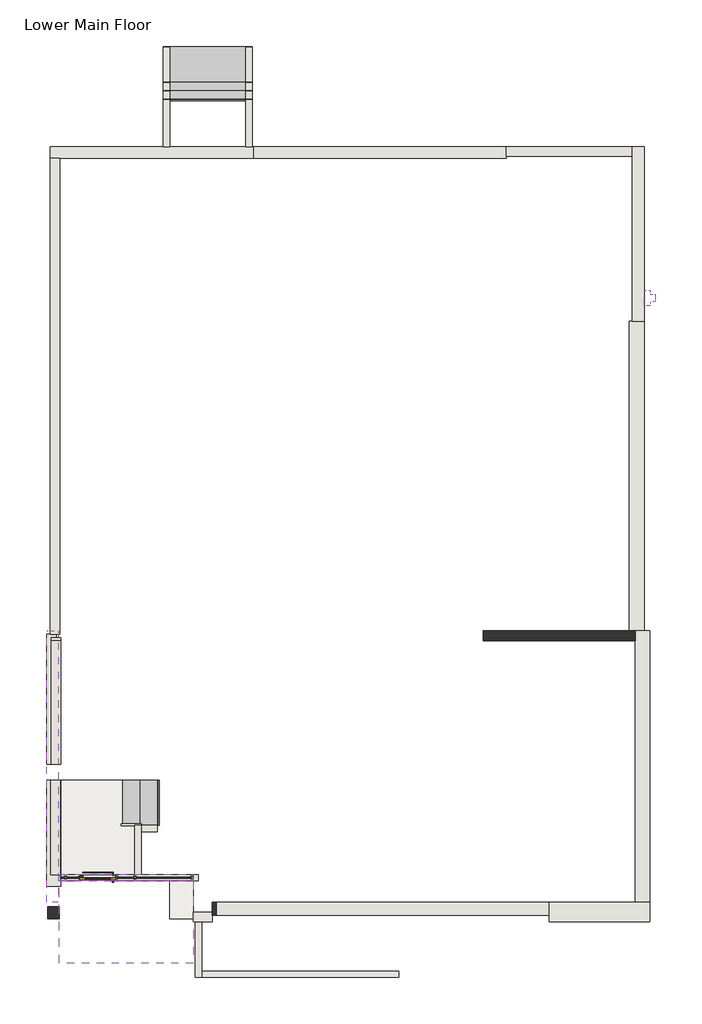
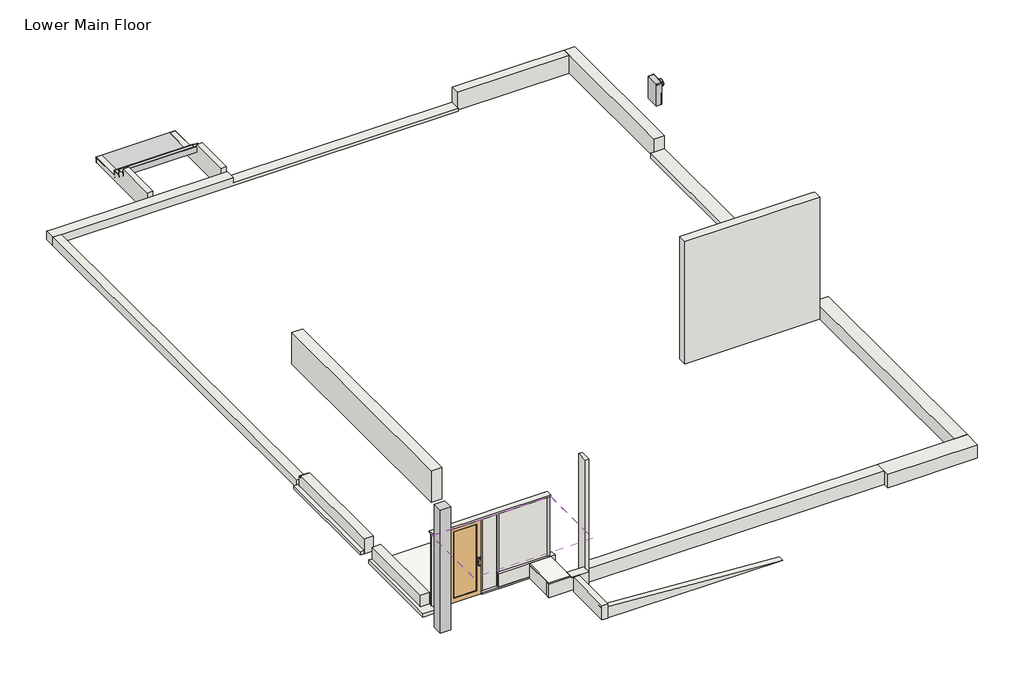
# One storey, incomplete: 29 walls, 6 proxies, 2 doors, 2 slabs, 2 stair flights, 1 column, 1 covering, 1 roof.
"""IFC4 building model written with IfcOpenShell, lengths in millimetres."""

from ifc_helpers import new_model, si_unit, frame, origin, origin_with_axes, place, context, project, spatial, polyline, outline, extrude, faceted_brep, transform, mapped, element, save
from components import hydro_meter_default_1_85c93f45, door_9453a76a, door_4acad3c3, stair_flight_50mm_tread_25mm_nosing_13mm_riser_681defaa, stair_flight_50mm_tread_25mm_nosing_13mm_riser_be8d0dcb

model = new_model("IFC4")

# Units and contexts
model_context = context("Model", 3, world=origin())
ifc_project = project(units=[si_unit("LENGTHUNIT", "METRE", prefix="MILLI")], contexts=[model_context])

# Site, building, storey
site = spatial("IfcSite", under=ifc_project)
building = spatial("IfcBuilding", under=site)
storey = spatial("IfcBuildingStorey", under=building, Name="Lower Main Floor", Elevation=-406.4)

# Proxies
placement = place(None, origin())
element("IfcBuildingElementProxy", 1, Name="Planitar-Mullion", ObjectType="Planitar-Mullion", at=placement, inside=storey, context=model_context, shape_type="SweptSolid", body=[
    extrude(outline(polyline([(1352.55, -7214.87), (1352.55, -7151.37), (1416.05, -7151.37), (1416.05, -7214.87), (1352.55, -7214.87)])), frame((0.0, 0.0, -355.6), z_axis=(0.0, 0.0, 1.0), x_axis=(1.0, 0.0, 0.0)), (0.0, 0.0, 1.0), 2235.2),
])
element("IfcBuildingElementProxy", 2, Name="Planitar-Mullion", ObjectType="Planitar-Mullion", at=placement, inside=storey, context=model_context, shape_type="SweptSolid", body=[
    extrude(outline(polyline([(2280.6276974, -7214.87), (2280.6276974, -7151.37), (2344.1276974, -7151.37), (2344.1276974, -7214.87), (2280.6276974, -7214.87)])), frame((0.0, 0.0, -355.6), z_axis=(0.0, 0.0, 1.0), x_axis=(1.0, 0.0, 0.0)), (0.0, 0.0, 1.0), 2216.15),
])
element("IfcBuildingElementProxy", 3, Name="Planitar-Mullion", ObjectType="Planitar-Mullion", at=placement, inside=storey, context=model_context, shape_type="SweptSolid", body=[
    extrude(outline(polyline([(2755.9, -7214.87), (2755.9, -7151.37), (2819.4, -7151.37), (2819.4, -7214.87), (2755.9, -7214.87)])), frame((0.0, 0.0, -355.6), z_axis=(0.0, 0.0, 1.0), x_axis=(1.0, 0.0, 0.0)), (0.0, 0.0, 1.0), 2216.15),
])
element("IfcBuildingElementProxy", 4, Name="Planitar-Mullion", ObjectType="Planitar-Mullion", at=placement, inside=storey, context=model_context, shape_type="SweptSolid", body=[
    extrude(outline(polyline([(4222.75, -7214.87), (4222.75, -7151.37), (4286.25, -7151.37), (4286.25, -7214.87), (4222.75, -7214.87)])), frame((0.0, 0.0, -336.55), z_axis=(0.0, 0.0, 1.0), x_axis=(1.0, 0.0, 0.0)), (0.0, 0.0, 1.0), 2197.1),
])
element("IfcBuildingElementProxy", 5, Name="Planitar-Mullion", ObjectType="Planitar-Mullion", at=placement, inside=storey, context=model_context, shape_type="SweptSolid", body=[
    extrude(outline(polyline([(971.55, -7214.87), (971.55, -7151.37), (1035.05, -7151.37), (1035.05, -7214.87), (971.55, -7214.87)])), frame((0.0, 0.0, -355.6), z_axis=(0.0, 0.0, 1.0), x_axis=(1.0, 0.0, 0.0)), (0.0, 0.0, 1.0), 2216.15),
])
hydro_meter_default_1_shape = hydro_meter_default_1_85c93f45(model_context)
element("IfcBuildingElementProxy", 6, Name="Hydro Meter : Default 1", ObjectType="Hydro Meter : Default 1", at=placement, inside=storey, context=model_context, shape_type="MappedRepresentation", body=[
    mapped(hydro_meter_default_1_shape, transform((15849.6, 7683.5, -406.4), x_axis=(0.0, -1.0, 0.0), y_axis=(1.0, 0.0, 0.0), z_axis=(0.0, 0.0, 1.0))),
])

# Column
element("IfcColumn", 7, ObjectType="Rectangular Column : Default 1", at=placement, inside=storey, context=model_context, shape_type="SweptSolid", body=[
    extrude(outline(polyline([(850.6952, -7924.8), (850.6952, -8229.6), (545.8952, -8229.6), (545.8952, -7924.8), (850.6952, -7924.8)])), frame((0.0, 0.0, -406.4), z_axis=(0.0, 0.0, 1.0), x_axis=(1.0, 0.0, 0.0)), (0.0, 0.0, 1.0), 3759.2),
])

# Covering
element("IfcCovering", 8, ObjectType="1/2\" Ceiling", at=placement, inside=storey, context=model_context, shape_type="SweptSolid", body=[
    extrude(outline(polyline([(850.6952, -9375.775), (850.6952, -7265.67), (4286.25, -7265.67), (4286.25, -9375.775), (850.6952, -9375.775)]), holes=[polyline([(1441.2452, -8193.7225), (1187.2452, -8193.7225), (1187.2452, -8447.7225), (1441.2452, -8447.7225), (1441.2452, -8193.7225)]), polyline([(3949.4952, -8193.7225), (3695.4952, -8193.7225), (3695.4952, -8447.7225), (3949.4952, -8447.7225), (3949.4952, -8193.7225)])]), frame((0.0, 0.0, 1879.6), z_axis=(0.0, 0.0, 1.0), x_axis=(1.0, 0.0, 0.0)), (0.0, 0.0, 1.0), 12.7),
])

# Doors
door_shape = door_9453a76a(model_context)
element("IfcDoor", 9, ObjectType="Planitar - Swap_Full Glass_Panel : Planitar - Swap_Full Glass_Panel", at=placement, inside=storey, context=model_context, shape_type="MappedRepresentation", body=[
    mapped(door_shape, transform((1835.15, -7208.52, -406.4), x_axis=(-1.0, 0.0, 0.0), y_axis=(0.0, -1.0, 0.0), z_axis=(0.0, 0.0, 1.0))),
])
door_2_shape = door_4acad3c3(model_context)
element("IfcDoor", 10, ObjectType="Planitar - Single Door : 3'-0 x 6'-8\"", at=placement, inside=storey, context=model_context, shape_type="MappedRepresentation", body=[
    mapped(door_2_shape, transform((1835.15, -7183.12, -406.4), x_axis=(-1.0, 0.0, 0.0), y_axis=(0.0, -1.0, 0.0), z_axis=(0.0, 0.0, 1.0))),
])

# Roof
element("IfcRoof", 11, ObjectType="Planitar Roof -2'", at=placement, inside=storey, context=model_context, shape_type="SweptSolid", body=[
    extrude(outline(polyline([(850.6952, -7242.175), (4286.0452, -7242.175), (4286.0452, -9375.775), (850.6952, -9375.775), (850.6952, -7242.175)])), frame((0.0, 0.0, 1879.6), z_axis=(0.0, 0.0, 1.0), x_axis=(1.0, 0.0, 0.0)), (0.0, 0.0, 1.0), 609.6),
])

# Slabs
element("IfcSlab", 12, ObjectType="Ledge - 2\"", at=placement, inside=storey, context=model_context, shape_type="SweptSolid", body=[
    extrude(outline(polyline([(2508.25, -4686.3), (2508.25, -5835.65), (2787.65, -5835.65), (2787.65, -7100.57), (876.3, -7100.57), (876.3, -4686.3), (2508.25, -4686.3)])), frame((0.0, 0.0, -457.2), z_axis=(0.0, 0.0, 1.0), x_axis=(1.0, 0.0, 0.0)), (0.0, 0.0, 1.0), 50.8),
])
element("IfcSlab", 13, ObjectType="Ledge - 2\"", at=placement, inside=storey, context=model_context, shape_type="SweptSolid", body=[
    extrude(outline(polyline([(3676.65, -7265.67), (4286.25, -7265.67), (4286.25, -8230.87), (3676.65, -8230.87), (3676.65, -7265.67)])), origin_with_axes(), (0.0, 0.0, 1.0), 50.8),
])

# Stair flights
stair_flight_50mm_tread_25mm_nosing_13mm_riser_shape = stair_flight_50mm_tread_25mm_nosing_13mm_riser_681defaa(model_context)
element("IfcStairFlight", 14, ObjectType="50mm Tread 25mm Nosing 13mm Riser", at=placement, inside=storey, context=model_context, shape_type="MappedRepresentation", body=[
    mapped(stair_flight_50mm_tread_25mm_nosing_13mm_riser_shape, transform((0.0, 0.0, 0.0), x_axis=(1.0, 0.0, 0.0), y_axis=(0.0, 1.0, 0.0), z_axis=(0.0, 0.0, 1.0))),
])
stair_flight_50mm_tread_25mm_nosing_13mm_riser_2_shape = stair_flight_50mm_tread_25mm_nosing_13mm_riser_be8d0dcb(model_context)
element("IfcStairFlight", 15, ObjectType="50mm Tread 25mm Nosing 13mm Riser", at=placement, inside=storey, context=model_context, shape_type="MappedRepresentation", body=[
    mapped(stair_flight_50mm_tread_25mm_nosing_13mm_riser_2_shape, transform((0.0, 0.0, 0.0), x_axis=(1.0, 0.0, 0.0), y_axis=(0.0, 1.0, 0.0), z_axis=(0.0, 0.0, 1.0))),
])

# Walls
element("IfcWall", 16, ObjectType="Planitar - Generic 10\"", at=placement, inside=storey, context=model_context, shape_type="Brep", body=[
    faceted_brep([(15614.65, -852.678, 3327.4), (15614.65, -852.678, 0.0), (15614.65, -852.678, -406.4), (15468.6, -852.678, -406.4), (11717.5643, -852.678, -406.4), (11717.5643, -852.678, 3327.4), (15494.0, -852.678, 3327.4), (15614.65, -1106.678, -406.4), (15614.65, -1106.678, 3327.4), (11717.5643, -1106.678, 3327.4), (11717.5643, -1106.678, 0.0), (11717.5643, -1106.678, -406.4), (11717.5643, -941.578, 3327.4)], [[[0, 1, 2, 3, 4, 5, 6]], [[7, 8, 9, 10, 11]], [[4, 3, 2, 7, 11]], [[0, 6, 5, 12, 9, 8]], [[0, 8, 7, 2, 1]], [[5, 4, 11, 10, 9, 12]]]),
])
element("IfcWall", 17, ObjectType="Planitar - Generic 6 1/2\"", at=placement, inside=storey, context=model_context, shape_type="Brep", body=[
    faceted_brep([(4286.25, -7265.67, -406.4), (4286.25, -7265.67, -355.6), (2292.35, -7265.67, -355.6), (2292.35, -7265.67, -406.4), (3676.65, -7265.67, -406.4), (3790.95, -7265.67, -406.4), (4286.25, -7100.57, -355.6), (4286.25, -7100.57, -406.4), (2292.35, -7100.57, -406.4), (2292.35, -7100.57, -355.6), (4286.25, -7170.42, -355.6), (4286.25, -7195.82, -355.6)], [[[0, 1, 2, 3, 4, 5]], [[6, 7, 8, 9]], [[3, 2, 9, 8]], [[1, 0, 7, 6, 10, 11]], [[1, 11, 10, 6, 9, 2]], [[7, 0, 5, 4, 3, 8]]]),
    faceted_brep([(876.0952, -7265.67, -355.6), (876.0952, -7265.67, -406.4), (1377.95, -7265.67, -406.4), (1377.95, -7265.67, -355.6), (876.0952, -7100.57, -406.4), (876.0952, -7100.57, -355.6), (1377.95, -7100.57, -355.6), (1377.95, -7100.57, -406.4), (1377.95, -7170.42, -355.6), (1377.95, -7195.82, -355.6)], [[[0, 1, 2, 3]], [[4, 5, 6, 7]], [[3, 2, 7, 6, 8, 9]], [[5, 0, 3, 9, 8, 6]], [[1, 4, 7, 2]], [[1, 0, 5, 4]]]),
])
element("IfcWall", 18, ObjectType="Planitar - Curtain wall (Curved)", at=placement, inside=storey, context=model_context, shape_type="SweptSolid", body=[
    extrude(outline(polyline([(-355.6, 1377.95), (1879.6, 1377.95), (1879.6, 876.0952), (-304.8, 876.0952), (-304.8, 888.7952), (-355.6, 888.7952), (-355.6, 971.55), (1860.55, 971.55), (1860.55, 1035.05), (-355.6, 1035.05), (-355.6, 1377.95)])), frame((0.0, -7195.82, 0.0), z_axis=(0.0, 1.0, 0.0), x_axis=(0.0, 0.0, 1.0)), (0.0, 0.0, 1.0), 25.4),
    extrude(outline(polyline([(1879.6, 2292.35), (1860.55, 2292.35), (1860.55, 2344.1276974), (-355.6, 2344.1276974), (-355.6, 2755.9), (1860.55, 2755.9), (1860.55, 2819.4), (-355.6, 2819.4), (-355.6, 4286.25), (-336.55, 4286.25), (-336.55, 4222.75), (1860.55, 4222.75), (1860.55, 4286.25), (1879.6, 4286.25), (1879.6, 2292.35)])), frame((0.0, -7195.82, 0.0), z_axis=(0.0, 1.0, 0.0), x_axis=(0.0, 0.0, 1.0)), (0.0, 0.0, 1.0), 25.4),
])
element("IfcWall", 19, ObjectType="Planitar - Generic 1' - 1\"", at=placement, inside=storey, context=model_context, shape_type="Brep", body=[
    faceted_brep([(4876.8, -7816.85, -406.4), (4775.2, -7816.85, -406.4), (4775.2, -7816.85, 3352.8), (4876.8, -7816.85, 3352.8), (4876.8, -7816.85, 3302.0), (4876.8, -7816.85, 2133.6), (4876.4346089, -7816.85, 2133.6), (4876.4346089, -7816.85, 0.0), (4876.8, -7816.85, 0.0), (4775.2, -8147.05, -406.4), (4876.8, -8147.05, -406.4), (4876.8, -8147.05, 0.0), (4876.4346089, -8147.05, 0.0), (4876.4346089, -8147.05, 2133.6), (4876.8, -8147.05, 2133.6), (4876.8, -8147.05, 3302.0), (4876.8, -8147.05, 3352.8), (4775.2, -8147.05, 3352.8), (4775.2, -8064.5, -406.4)], [[[0, 1, 2, 3, 4, 5, 6, 7, 8]], [[9, 10, 11, 12, 13, 14, 15, 16, 17]], [[1, 0, 10, 9, 18]], [[10, 0, 8, 11]], [[14, 5, 4, 3, 16, 15]], [[1, 18, 9, 17, 2]], [[3, 2, 17, 16]], [[12, 7, 6, 13]], [[13, 6, 5, 14]], [[7, 12, 11, 8]]]),
])
element("IfcWall", 20, ObjectType="Planitar - Generic 6 1/2\"", at=placement, inside=storey, context=model_context, shape_type="Brep", body=[
    faceted_brep([(4286.25, -7265.67, 1930.4), (876.0952, -7265.67, 1930.4), (876.0952, -7265.67, 1879.6), (4286.25, -7265.67, 1879.6), (4286.25, -7100.57, 1930.4), (4286.25, -7100.57, 1879.6), (876.0952, -7100.57, 1879.6), (876.0952, -7100.57, 1930.4), (876.0952, -7195.82, 1879.6), (876.0952, -7170.42, 1879.6), (4286.25, -7170.42, 1879.6), (4286.25, -7195.82, 1879.6)], [[[0, 1, 2, 3]], [[4, 5, 6, 7]], [[1, 0, 4, 7]], [[3, 2, 8, 9, 6, 5, 10, 11]], [[0, 3, 11, 10, 5, 4]], [[2, 1, 7, 6, 9, 8]]]),
])
element("IfcWall", 21, ObjectType="Planitar - Generic 1' - 1\"", at=placement, inside=storey, context=model_context, shape_type="Brep", body=[
    faceted_brep([(4775.2, -8147.05, -406.4), (13411.2, -8147.05, -406.4), (13411.2, -8147.05, 0.0), (4775.2, -8147.05, 0.0), (4775.2, -7816.85, -406.4), (4775.2, -7816.85, 0.0), (5790.8346089, -7816.85, 0.0), (13411.2, -7816.85, 0.0), (13411.2, -7816.85, -406.4), (4775.2, -8064.5, -406.4)], [[[0, 1, 2, 3]], [[4, 5, 6, 7, 8]], [[1, 0, 9, 4, 8]], [[2, 1, 8, 7]], [[3, 2, 7, 6, 5]], [[0, 3, 5, 4, 9]]]),
])
element("IfcWall", 22, ObjectType="Planitar - Generic 6 1/2\"", at=placement, inside=storey, context=model_context, shape_type="Brep", body=[
    faceted_brep([(2787.65, -7265.67, -406.4), (3676.65, -7265.67, -406.4), (3790.95, -7265.67, -406.4), (4413.25, -7265.67, -406.4), (4413.25, -7265.67, 50.8), (2787.65, -7265.67, 50.8), (2787.65, -7100.57, -406.4), (2787.65, -7100.57, 50.8), (2952.75, -7100.57, 50.8), (4413.25, -7100.57, 50.8), (4413.25, -7100.57, -406.4), (2952.75, -7100.57, -406.4)], [[[0, 1, 2, 3, 4, 5]], [[6, 7, 8, 9, 10, 11]], [[3, 2, 1, 0, 6, 11, 10]], [[4, 3, 10, 9]], [[5, 4, 9, 8, 7]], [[0, 5, 7, 6]]]),
])
element("IfcWall", 23, ObjectType="Planitar - Generic 6 1/2\"", at=placement, inside=storey, context=model_context, shape_type="Brep", body=[
    faceted_brep([(2952.75, -7100.57, -406.4), (2952.75, -6008.6875, -406.4), (2952.75, -5845.175, -406.4), (2952.75, -5845.175, -161.4475666), (2952.75, -5843.5875, -161.4475666), (2952.75, -5843.5875, 50.8), (2952.75, -6008.6875, 50.8), (2952.75, -7100.57, 50.8), (2787.65, -7100.57, -406.4), (2787.65, -7100.57, 50.8), (2787.65, -5843.5875, 50.8), (2787.65, -5843.5875, -161.4475666), (2787.65, -5845.175, -161.4475666), (2787.65, -5845.175, -406.4)], [[[0, 1, 2, 3, 4, 5, 6, 7]], [[8, 9, 10, 11, 12, 13]], [[2, 1, 0, 8, 13]], [[7, 6, 5, 10, 9]], [[0, 7, 9, 8]], [[11, 4, 3, 12]], [[3, 2, 13, 12]], [[5, 4, 11, 10]]]),
])
element("IfcWall", 24, ObjectType="Planitar - Generic 6 1/2\"", at=placement, inside=storey, context=model_context, shape_type="Brep", body=[
    faceted_brep([(2952.75, -6008.6875, -406.4), (3365.5, -6008.6875, -406.4), (3365.5, -6008.6875, 50.8), (2952.75, -6008.6875, 50.8), (2952.75, -5843.5875, -406.4), (2952.75, -5843.5875, -161.4475666), (2952.75, -5843.5875, 50.8), (3365.5, -5843.5875, 50.8), (3365.5, -5843.5875, -406.4), (2952.75, -5845.175, -406.4)], [[[0, 1, 2, 3]], [[4, 5, 6, 7, 8]], [[1, 0, 9, 4, 8]], [[2, 1, 8, 7]], [[3, 2, 7, 6]], [[0, 3, 6, 5, 4, 9]]]),
])
element("IfcWall", 25, ObjectType="Planitar - Generic 2\"", at=placement, inside=storey, context=model_context, shape_type="Brep", body=[
    faceted_brep([(2952.75, -5845.175, -406.4), (2952.75, -5845.175, -161.4475666), (2952.75, -5845.175, -112.328622), (2438.4, -5845.175, -265.2053099), (2438.4, -5845.175, -406.4), (2577.7, -5845.175, -406.4), (2787.65, -5845.175, -406.4), (2952.75, -5794.375, -406.4), (2577.7, -5794.375, -406.4), (2438.4, -5794.375, -406.4), (2438.4, -5794.375, -265.2053099), (2952.75, -5794.375, -112.328622), (2952.75, -5843.5875, -406.4)], [[[0, 1, 2, 3, 4, 5, 6]], [[7, 8, 9, 10, 11]], [[0, 6, 5, 8, 7, 12]], [[3, 2, 11, 10]], [[4, 3, 10, 9]], [[5, 4, 9, 8]], [[2, 1, 0, 12, 7, 11]]]),
])
element("IfcWall", 26, ObjectType="Planitar - Generic 6 1/2\"", at=placement, inside=storey, context=model_context, shape_type="Brep", body=[
    faceted_brep([(4337.05, -8318.5, 31.75), (4337.05, -8318.5, 0.0), (4337.05, -8318.5, -406.4), (4337.05, -9740.9, -406.4), (4337.05, -9740.9, 31.75), (4502.15, -8318.5, -406.4), (4502.15, -8318.5, 31.75), (4502.15, -9740.9, 31.75), (4502.15, -9740.9, -406.4), (4419.6, -8318.5, -406.4)], [[[0, 1, 2, 3, 4]], [[5, 6, 7, 8]], [[3, 2, 9, 5, 8]], [[0, 4, 7, 6]], [[0, 6, 5, 9, 2, 1]], [[4, 3, 8, 7]]]),
])
element("IfcWall", 27, ObjectType="Planitar - Generic 6 1/2\"", at=placement, inside=storey, context=model_context, shape_type="SweptSolid", body=[
    extrude(outline(polyline([(-406.4, 4337.05), (-406.4, 9551.4494012), (-50.9179117, 4337.05), (-406.4, 4337.05)])), frame((0.0, -9740.9, 0.0), z_axis=(0.0, 1.0, 0.0), x_axis=(0.0, 0.0, 1.0)), (0.0, 0.0, 1.0), 165.1),
])
element("IfcWall", 28, ObjectType="Planitar - Generic 6 1/2\"", at=placement, inside=storey, context=model_context, shape_type="SweptSolid", body=[
    extrude(outline(polyline([(12776.2329304, 0.0), (12751.2329304, -152.4), (12992.1329304, -152.4), (12967.1329304, -304.8), (13208.0329304, -304.8), (13183.0329304, -457.2), (14122.4329304, -457.2), (14097.4329304, -609.6), (11569.7, -609.6), (11569.7, 0.0), (12776.2329304, 0.0)])), frame((3513.7240582, 0.0, 0.0), z_axis=(1.0, 0.0, 0.0), x_axis=(0.0, 1.0, 0.0)), (0.0, 0.0, 1.0), 165.1),
])
element("IfcWall", 29, ObjectType="Planitar - Generic 1' - 0\"", at=placement, inside=storey, context=model_context, shape_type="Brep", body=[
    faceted_brep([(825.2952, -7810.5, 3352.8), (825.2952, -1157.478, 3352.8), (825.2952, -852.678, 3352.8), (825.2952, -852.678, 4318.0), (825.2952, -1157.478, 4318.0), (825.2952, -7810.5, 4318.0), (520.4952, -7810.5, 3352.8), (520.4952, -7810.5, 4318.0), (520.4952, -852.678, 4318.0), (520.4952, -852.678, 3352.8), (609.3952, -852.678, 3352.8)], [[[0, 1, 2, 3, 4, 5]], [[6, 7, 8, 9]], [[2, 1, 0, 6, 9, 10]], [[5, 4, 3, 8, 7]], [[0, 5, 7, 6]], [[2, 10, 9, 8, 3]]]),
])
element("IfcWall", 30, ObjectType="Planitar - Generic 1' - 8\"", at=placement, inside=storey, context=model_context, shape_type="Brep", body=[
    faceted_brep([(13411.2, -8318.5, -406.4), (15995.65, -8318.5, -406.4), (15995.65, -8318.5, 0.0), (13411.2, -8318.5, 0.0), (13411.2, -7810.5, -406.4), (13411.2, -7810.5, 0.0), (15614.65, -7810.5, 0.0), (15995.65, -7810.5, 0.0), (15995.65, -7810.5, -406.4), (15614.65, -7810.5, -406.4), (13411.2, -8147.05, -406.4), (13411.2, -7816.85, -406.4), (13411.2, -7816.85, 0.0), (13411.2, -8147.05, 0.0)], [[[0, 1, 2, 3]], [[4, 5, 6, 7, 8, 9]], [[1, 0, 10, 11, 4, 9, 8]], [[3, 2, 7, 6, 5, 12, 13]], [[0, 3, 13, 12, 5, 4, 11, 10]], [[2, 1, 8, 7]]]),
])
element("IfcWall", 31, ObjectType="Planitar - Generic 1' - 3\"", at=placement, inside=storey, context=model_context, shape_type="Brep", body=[
    faceted_brep([(15995.65, -7810.5, -406.4), (15995.65, -852.678, -406.4), (15995.65, -852.678, 0.0), (15995.65, -7810.5, 0.0), (15614.65, -7810.5, -406.4), (15614.65, -7810.5, 0.0), (15614.65, -852.678, 0.0), (15614.65, -852.678, -406.4), (15614.65, -1106.678, -406.4), (15849.6, -852.678, -406.4)], [[[0, 1, 2, 3]], [[4, 5, 6, 7, 8]], [[1, 0, 4, 8, 7, 9]], [[3, 2, 6, 5]], [[0, 3, 5, 4]], [[1, 9, 7, 6, 2]]]),
])
element("IfcWall", 32, ObjectType="Planitar - Generic 1' - 3\"", at=placement, inside=storey, context=model_context, shape_type="Brep", body=[
    faceted_brep([(15849.6, -852.678, -406.4), (15849.6, 7091.172, -406.4), (15849.6, 7091.172, -254.0), (15849.6, -852.678, -254.0), (15468.6, -852.678, -406.4), (15468.6, -852.678, -254.0), (15468.6, 7091.172, -254.0), (15468.6, 7091.172, -406.4), (15494.0, -852.678, -254.0), (15614.65, -852.678, -406.4)], [[[0, 1, 2, 3]], [[4, 5, 6, 7]], [[0, 3, 8, 5, 4, 9]], [[1, 0, 9, 4, 7]], [[2, 1, 7, 6]], [[3, 2, 6, 5, 8]]]),
])
element("IfcWall", 33, ObjectType="Planitar - Generic 1' - 0\"", at=placement, inside=storey, context=model_context, shape_type="Brep", body=[
    faceted_brep([(15849.6, 7092.95, -406.4), (15849.6, 11569.7, -406.4), (15849.6, 11569.7, 152.4), (15849.6, 11315.7, 152.4), (15849.6, 7092.95, 152.4), (15544.8, 7092.95, -406.4), (15544.8, 7092.95, 152.4), (15544.8, 11315.7, 152.4), (15544.8, 11569.7, 152.4), (15544.8, 11569.7, -406.4), (15544.8, 11315.7, -406.4)], [[[0, 1, 2, 3, 4]], [[5, 6, 7, 8, 9, 10]], [[2, 1, 9, 8]], [[1, 0, 5, 10, 9]], [[4, 3, 2, 8, 7, 6]], [[0, 4, 6, 5]]]),
])
element("IfcWall", 34, ObjectType="Planitar - Generic 10\"", at=placement, inside=storey, context=model_context, shape_type="Brep", body=[
    faceted_brep([(12312.65, 11315.7, 152.4), (12312.65, 11315.7, -304.8), (12312.65, 11315.7, -406.4), (15544.8, 11315.7, -406.4), (15544.8, 11315.7, 152.4), (12312.65, 11569.7, -406.4), (12312.65, 11569.7, -304.8), (12312.65, 11569.7, 152.4), (15544.8, 11569.7, 152.4), (15544.8, 11569.7, -406.4)], [[[0, 1, 2, 3, 4]], [[5, 6, 7, 8, 9]], [[4, 3, 9, 8]], [[3, 2, 5, 9]], [[0, 4, 8, 7]], [[0, 7, 6, 5, 2, 1]]]),
])
element("IfcWall", 35, ObjectType="Planitar - Generic 1' - 0\"", at=placement, inside=storey, context=model_context, shape_type="Brep", body=[
    faceted_brep([(12312.65, 11569.7, -406.4), (609.3952, 11569.7, -406.4), (609.3952, 11569.7, -152.4), (812.5952, 11569.7, -152.4), (5822.95, 11569.7, -152.4), (5822.95, 11569.7, -304.8), (12312.65, 11569.7, -304.8), (12312.65, 11264.9, -406.4), (12312.65, 11264.9, -304.8), (5822.95, 11264.9, -304.8), (5822.95, 11264.9, -152.4), (863.3952, 11264.9, -152.4), (609.3952, 11264.9, -152.4), (609.3952, 11264.9, -406.4), (863.3952, 11264.9, -406.4), (12312.65, 11315.7, -406.4), (12312.65, 11315.7, -304.8)], [[[0, 1, 2, 3, 4, 5, 6]], [[7, 8, 9, 10, 11, 12, 13, 14]], [[2, 1, 13, 12]], [[1, 0, 15, 7, 14, 13]], [[4, 3, 2, 12, 11, 10]], [[0, 6, 16, 8, 7, 15]], [[5, 4, 10, 9]], [[6, 5, 9, 8, 16]]]),
])
element("IfcWall", 36, ObjectType="Planitar - Generic 10\"", at=placement, inside=storey, context=model_context, shape_type="Brep", body=[
    faceted_brep([(609.3952, 11264.9, -406.4), (609.3952, -941.578, -406.4), (609.3952, -941.578, -152.4), (609.3952, 11264.9, -152.4), (863.3952, 11264.9, -406.4), (863.3952, 11264.9, -152.4), (863.3952, -941.578, -152.4), (863.3952, -941.578, -406.4), (774.4952, -941.578, -406.4)], [[[0, 1, 2, 3]], [[4, 5, 6, 7]], [[0, 3, 5, 4]], [[1, 0, 4, 7, 8]], [[2, 1, 8, 7, 6]], [[3, 2, 6, 5]]]),
])
element("IfcWall", 37, ObjectType="Planitar - Generic 10\"", at=placement, inside=storey, context=model_context, shape_type="Brep", body=[
    faceted_brep([(520.4952, -941.578, -406.4), (520.4952, -4267.2, -406.4), (520.4952, -4267.2, -304.8), (520.4952, -941.578, -304.8), (774.4952, -941.578, -406.4), (774.4952, -941.578, -304.8), (774.4952, -1024.128, -304.8), (774.4952, -1024.128, -406.4), (609.3952, -941.578, -406.4), (634.7952, -1024.128, -406.4), (634.7952, -4267.2, -406.4), (634.7952, -4267.2, -304.8), (634.7952, -1024.128, -304.8)], [[[0, 1, 2, 3]], [[4, 5, 6, 7]], [[1, 0, 8, 4, 7, 9, 10]], [[3, 2, 11, 12, 6, 5]], [[0, 3, 5, 4, 8]], [[9, 12, 11, 10]], [[2, 1, 10, 11]], [[12, 9, 7, 6]]]),
])
element("IfcWall", 38, ObjectType="Planitar - Generic 10\"", at=placement, inside=storey, context=model_context, shape_type="Brep", body=[
    faceted_brep([(4419.6, -8318.5, -406.4), (4502.15, -8318.5, -406.4), (4775.2, -8318.5, -406.4), (4775.2, -8318.5, 50.8), (4286.25, -8318.5, 50.8), (4286.25, -8318.5, 31.75), (4337.05, -8318.5, 31.75), (4337.05, -8318.5, 0.0), (4419.6, -8318.5, 0.0), (4419.6, -8064.5, -406.4), (4419.6, -8064.5, 0.0), (4337.05, -8064.5, 0.0), (4337.05, -8064.5, 31.75), (4286.25, -8064.5, 31.75), (4286.25, -8064.5, 50.8), (4775.2, -8064.5, 50.8), (4775.2, -8064.5, -406.4), (4775.2, -8147.05, -406.4)], [[[0, 1, 2, 3, 4, 5, 6, 7, 8]], [[9, 10, 11, 12, 13, 14, 15, 16]], [[2, 1, 0, 9, 16, 17]], [[4, 3, 15, 14]], [[0, 8, 10, 9]], [[7, 11, 10, 8]], [[5, 13, 12, 6]], [[7, 6, 12, 11]], [[5, 4, 14, 13]], [[2, 17, 16, 15, 3]]]),
])
element("IfcWall", 39, ObjectType="Planitar - Generic 10\"", at=placement, inside=storey, context=model_context, shape_type="Brep", body=[
    faceted_brep([(634.7952, -1024.128, 0.0), (634.7952, -1024.128, -304.8), (634.7952, -1024.128, -406.4), (634.7952, -4267.2, -406.4), (634.7952, -4267.2, -304.8), (634.7952, -4267.2, 50.8), (634.7952, -1106.678, 50.8), (634.7952, -1106.678, 0.0), (888.7952, -1024.128, -406.4), (888.7952, -1024.128, 0.0), (888.7952, -1106.678, 0.0), (888.7952, -1106.678, 50.8), (888.7952, -4267.2, 50.8), (888.7952, -4267.2, -406.4), (774.4952, -1024.128, -406.4)], [[[0, 1, 2, 3, 4, 5, 6, 7]], [[8, 9, 10, 11, 12, 13]], [[3, 2, 14, 8, 13]], [[6, 5, 12, 11]], [[3, 13, 12, 5, 4]], [[0, 9, 8, 14, 2, 1]], [[7, 10, 9, 0]], [[7, 6, 11, 10]]]),
])
element("IfcWall", 40, ObjectType="Planitar - Generic 10\"", at=placement, inside=storey, context=model_context, shape_type="SweptSolid", body=[
    extrude(outline(polyline([(622.0952, -7100.57), (622.0952, -4686.3), (876.0952, -4686.3), (876.0952, -7100.57), (622.0952, -7100.57)])), frame((0.0, 0.0, -304.8), z_axis=(0.0, 0.0, 1.0), x_axis=(1.0, 0.0, 0.0)), (0.0, 0.0, 1.0), 355.6),
])
element("IfcWall", 41, ObjectType="Planitar - Generic 4 1/2\"", at=placement, inside=storey, context=model_context, shape_type="Brep", body=[
    faceted_brep([(4489.45, -8116.57, -406.4), (3790.95, -8116.57, -406.4), (3676.65, -8116.57, -406.4), (3676.65, -8116.57, 0.0), (3790.95, -8116.57, 0.0), (4489.45, -8116.57, 0.0), (4489.45, -8230.87, -406.4), (4489.45, -8230.87, 0.0), (3676.65, -8230.87, 0.0), (3676.65, -8230.87, -406.4)], [[[0, 1, 2, 3, 4, 5]], [[6, 7, 8, 9]], [[2, 1, 0, 6, 9]], [[5, 4, 3, 8, 7]], [[0, 5, 7, 6]], [[3, 2, 9, 8]]]),
])
element("IfcWall", 42, ObjectType="Planitar - Generic 4 1/2\"", at=placement, inside=storey, context=model_context, shape_type="SweptSolid", body=[
    extrude(outline(polyline([(3790.95, -7265.67), (3790.95, -8116.57), (3676.65, -8116.57), (3676.65, -7265.67), (3790.95, -7265.67)])), frame((0.0, 0.0, -406.4), z_axis=(0.0, 0.0, 1.0), x_axis=(1.0, 0.0, 0.0)), (0.0, 0.0, 1.0), 406.4),
])
element("IfcWall", 43, ObjectType="Planitar - Generic 6 1/2\"", at=placement, inside=storey, context=model_context, shape_type="SweptSolid", body=[
    extrude(outline(polyline([(12776.2329304, 0.0), (12751.2329304, -152.4), (12992.1329304, -152.4), (12967.1329304, -304.8), (13208.0329304, -304.8), (13183.0329304, -457.2), (14122.4329304, -457.2), (14097.4329304, -609.6), (11569.7, -609.6), (11569.7, 0.0), (12776.2329304, 0.0)])), frame((5634.6240582, 0.0, 0.0), z_axis=(1.0, 0.0, 0.0), x_axis=(0.0, 1.0, 0.0)), (0.0, 0.0, 1.0), 165.1),
])
element("IfcWall", 44, ObjectType="Planitar - Generic 1' - 2 1/2\"", at=placement, inside=storey, context=model_context, shape_type="Brep", body=[
    faceted_brep([(520.4952, -4686.3, -406.4), (520.4952, -7399.02, -406.4), (520.4952, -7399.02, -304.8), (520.4952, -4686.3, -304.8), (888.7952, -4686.3, -406.4), (888.7952, -4686.3, -304.8), (888.7952, -7170.42, -304.8), (888.7952, -7195.82, -304.8), (888.7952, -7399.02, -304.8), (888.7952, -7399.02, -406.4), (876.0952, -4686.3, -304.8), (634.7952, -4686.3, -304.8), (622.0952, -4686.3, -304.8)], [[[0, 1, 2, 3]], [[4, 5, 6, 7, 8, 9]], [[1, 0, 4, 9]], [[2, 1, 9, 8]], [[3, 2, 8, 7, 6, 5, 10, 11, 12]], [[0, 3, 12, 11, 10, 5, 4]]]),
])

save(model, "model.ifc")
